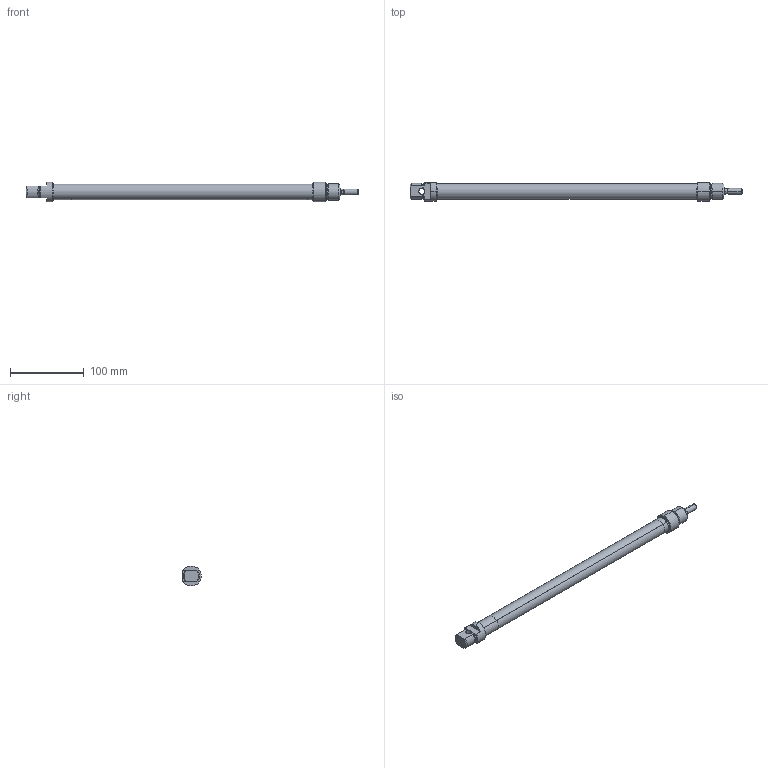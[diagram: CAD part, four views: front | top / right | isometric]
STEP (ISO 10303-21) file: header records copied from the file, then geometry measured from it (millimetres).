
FILE_DESCRIPTION (( 'STEP AP203' ), '1' );
FILE_NAME ('MF0200320A.step', '2012-10-17T16:36:09', ( '' ), ( '' ), 'SwSTEP 2.0', 'SolidWorks 2012', '' );
FILE_SCHEMA (( 'CONFIG_CONTROL_DESIGN' ));
Length unit declared in the file: millimetre
Products named in the file (1): MF0200320A
Bounding box: 451.5 x 25.2 x 27 mm (x, y, z)
Volume: 70776.5 mm3; surface area: 60854.6 mm2
Topology: 1 solids, 2 shells, 108 faces, 250 edges, 157 vertices
Faces by surface type: cylinder 45, plane 33, cone 26, torus 4
Entity records: 3278 total; most frequent: CARTESIAN_POINT 675, DIRECTION 570, ORIENTED_EDGE 496, EDGE_CURVE 248, AXIS2_PLACEMENT_3D 231, VERTEX_POINT 157, EDGE_LOOP 125, CIRCLE 122
